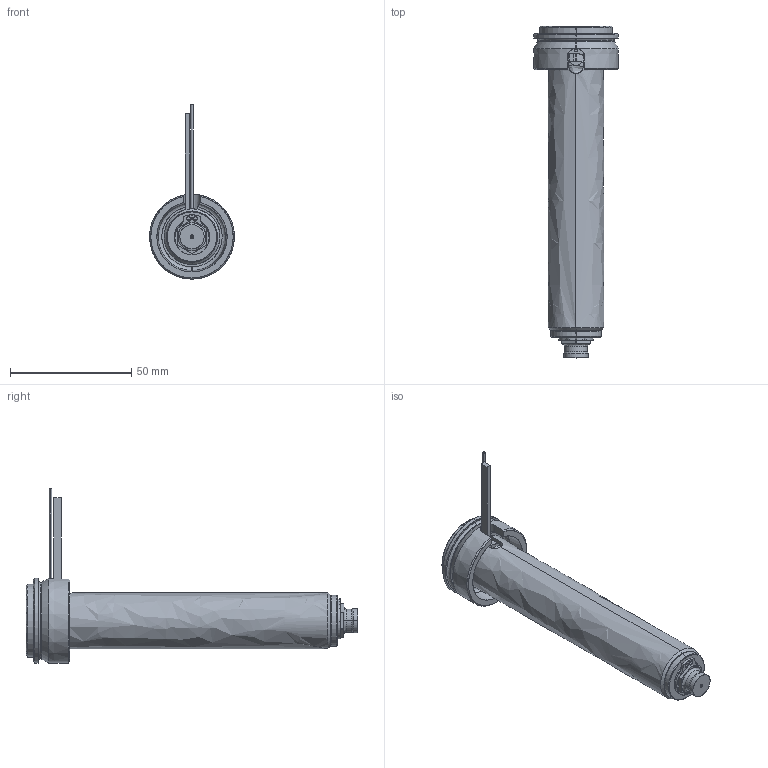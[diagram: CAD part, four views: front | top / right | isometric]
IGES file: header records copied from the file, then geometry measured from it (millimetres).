
Start section: SolidWorks IGES file using analytic representation for surfaces
Global section: file name: C:\Documents and Settings\ws-20\Desktop\TEM\UGEP3153-M-A-1 [Øf-0.50 P-0 ØC-7.0].IGS; native system: SolidWorks 2012; preprocessor: SolidWorks 2012; author: ws-20; date: 120404.082246; units: millimetre
Bounding box: 35 x 137 x 71.9 mm (x, y, z)
Surface area: 27364.8 mm2 (no closed solid volume)
Topology: 0 solids, 0 shells, 122 faces, 1680 edges, 1680 vertices
Faces by surface type: revolution 75, bspline 47
